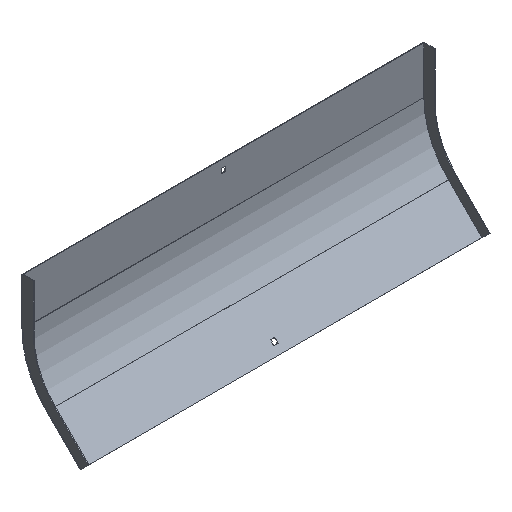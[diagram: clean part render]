
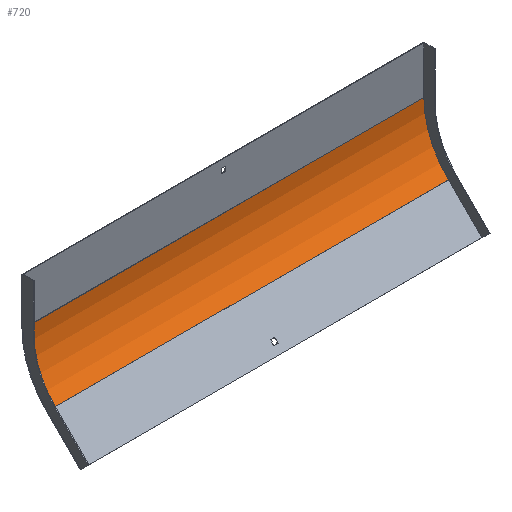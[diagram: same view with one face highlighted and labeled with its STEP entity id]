
A CAD part, isometric view. The second image highlights one B-rep face of the part: STEP entity #720.
In plain terms, the highlighted cylindrical face has radius 125 mm (diameter 250 mm), a partial arc.
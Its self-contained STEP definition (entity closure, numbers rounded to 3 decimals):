
#24 = DIRECTION ( 'NONE',  ( 0., 0., 1. ) ) ;
#64 = CIRCLE ( 'NONE', #105, 125. ) ;
#80 = VECTOR ( 'NONE', #742, 1000. ) ;
#101 = VERTEX_POINT ( 'NONE', #786 ) ;
#105 = AXIS2_PLACEMENT_3D ( 'NONE', #315, #504, #723 ) ;
#118 = AXIS2_PLACEMENT_3D ( 'NONE', #286, #421, #24 ) ;
#150 = CYLINDRICAL_SURFACE ( 'NONE', #118, 125. ) ;
#154 = DIRECTION ( 'NONE',  ( 0., 0., 1. ) ) ;
#188 = VECTOR ( 'NONE', #195, 1000. ) ;
#195 = DIRECTION ( 'NONE',  ( -1., 0., 0. ) ) ;
#221 = CARTESIAN_POINT ( 'NONE',  ( -300., -37.612, -159.388 ) ) ;
#239 = ORIENTED_EDGE ( 'NONE', *, *, #602, .T. ) ;
#243 = ORIENTED_EDGE ( 'NONE', *, *, #524, .F. ) ;
#282 = EDGE_CURVE ( 'NONE', #101, #393, #686, .T. ) ;
#286 = CARTESIAN_POINT ( 'NONE',  ( 301., -126., -71. ) ) ;
#315 = CARTESIAN_POINT ( 'NONE',  ( 300., -126., -71. ) ) ;
#360 = CARTESIAN_POINT ( 'NONE',  ( 300., -37.612, -159.388 ) ) ;
#393 = VERTEX_POINT ( 'NONE', #618 ) ;
#421 = DIRECTION ( 'NONE',  ( -1., 0., 0. ) ) ;
#426 = VERTEX_POINT ( 'NONE', #221 ) ;
#475 = FACE_OUTER_BOUND ( 'NONE', #663, .T. ) ;
#482 = CIRCLE ( 'NONE', #778, 125. ) ;
#504 = DIRECTION ( 'NONE',  ( 1., 0., 0. ) ) ;
#505 = ORIENTED_EDGE ( 'NONE', *, *, #282, .T. ) ;
#524 = EDGE_CURVE ( 'NONE', #426, #393, #482, .T. ) ;
#527 = VERTEX_POINT ( 'NONE', #360 ) ;
#539 = CARTESIAN_POINT ( 'NONE',  ( 301., -37.612, -159.388 ) ) ;
#553 = ORIENTED_EDGE ( 'NONE', *, *, #783, .F. ) ;
#602 = EDGE_CURVE ( 'NONE', #527, #101, #64, .T. ) ;
#609 = CARTESIAN_POINT ( 'NONE',  ( 301., -1., -71. ) ) ;
#618 = CARTESIAN_POINT ( 'NONE',  ( -300., -1., -71. ) ) ;
#663 = EDGE_LOOP ( 'NONE', ( #243, #553, #239, #505 ) ) ;
#686 = LINE ( 'NONE', #609, #188 ) ;
#698 = DIRECTION ( 'NONE',  ( 1., 0., 0. ) ) ;
#720 = ADVANCED_FACE ( 'NONE', ( #475 ), #150, .F. ) ;
#723 = DIRECTION ( 'NONE',  ( 0., 0., 1. ) ) ;
#742 = DIRECTION ( 'NONE',  ( -1., 0., 0. ) ) ;
#754 = LINE ( 'NONE', #539, #80 ) ;
#760 = CARTESIAN_POINT ( 'NONE',  ( -300., -126., -71. ) ) ;
#778 = AXIS2_PLACEMENT_3D ( 'NONE', #760, #698, #154 ) ;
#783 = EDGE_CURVE ( 'NONE', #527, #426, #754, .T. ) ;
#786 = CARTESIAN_POINT ( 'NONE',  ( 300., -1., -71. ) ) ;
